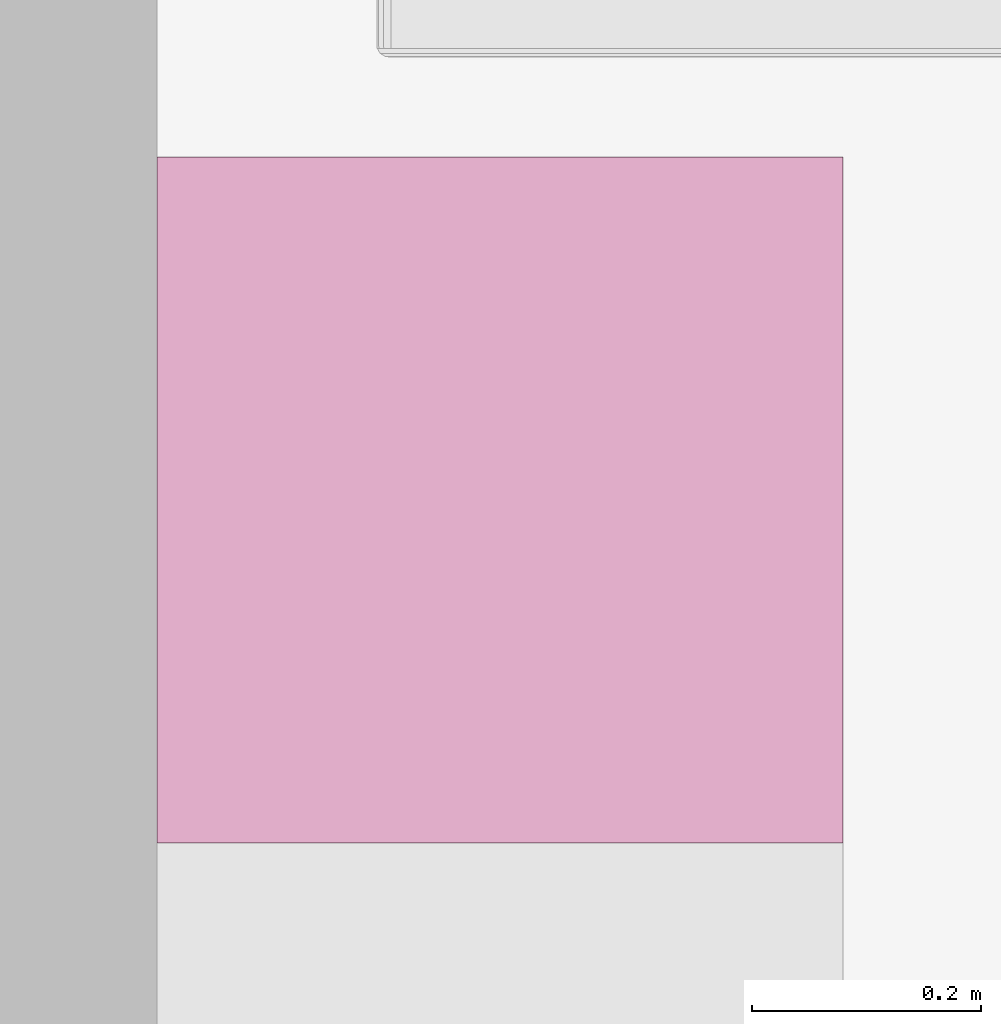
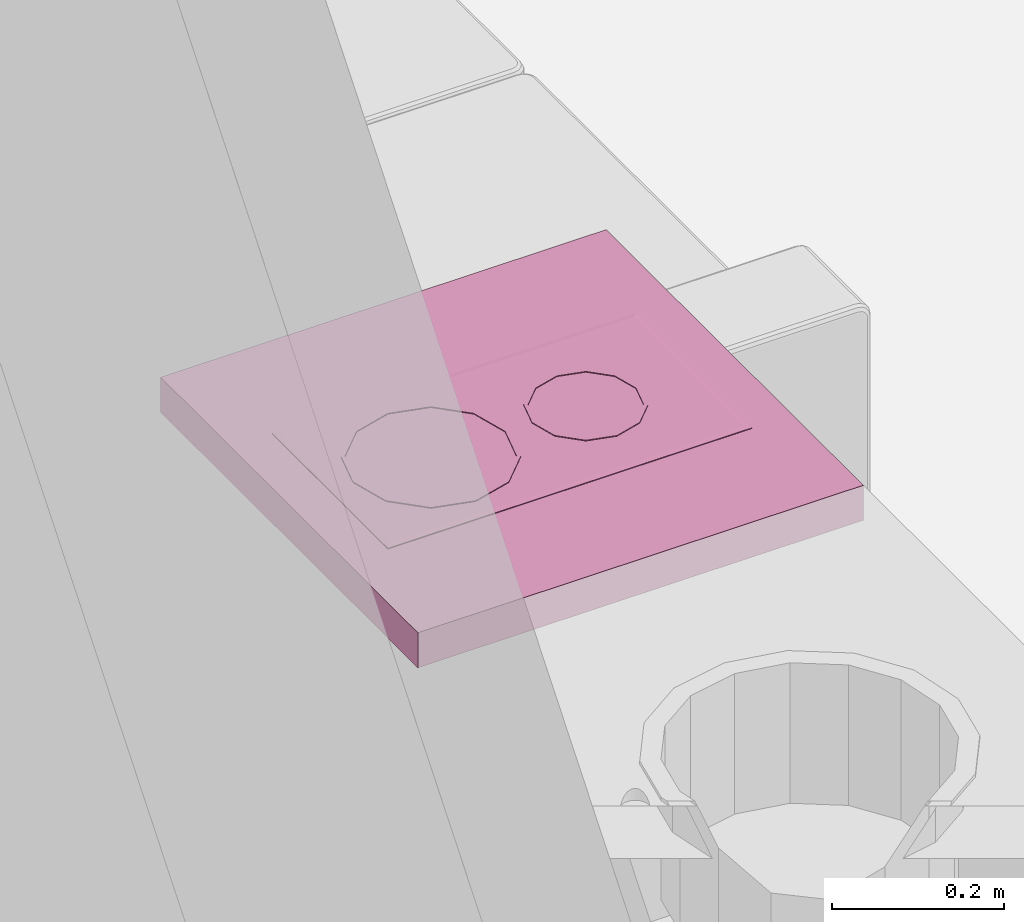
# One storey, part 158 of 165: 1 furnishing.
"""IFC2X3 building model written with IfcOpenShell, lengths in millimetres."""

import ifcopenshell
import ifcopenshell.guid

model = None  # the IFC model being written
_history = None  # IfcOwnerHistory: only IFC2X3 demands one
_inside = {}  # id of a spatial element -> (the spatial element, [elements in it])
_under = {}  # id of a project, library or spatial element -> (it, [spatial elements below it])
_declared = {}  # id of a project -> (the project, [libraries it declares])
_typed = {}  # id of a type object -> (the type object, [elements of that type])
_made_of = {}  # id of a material, layer set ... -> (it, [elements and type objects made of it])


def new_model(schema):
    """Start an empty IFC model of exactly this schema.

    Asked for "IFC4X3", IfcOpenShell would pick the latest addendum, in which some entities
    have other attributes; the version numbers below select the first issue.
    IFC2X3 requires an IfcOwnerHistory on every rooted entity: one is made here for all.
    """
    global model, _history
    if schema == "IFC4X3":
        model = ifcopenshell.file(schema_version=(4, 3, 0, 0))
    else:
        model = ifcopenshell.file(schema=schema)
    _inside.clear()
    _under.clear()
    _declared.clear()
    _typed.clear()
    _made_of.clear()
    _history = None
    if model.schema == "IFC2X3":
        org = make("IfcOrganization", Name="unknown")
        user = make(
            "IfcPersonAndOrganization",
            ThePerson=make("IfcPerson", FamilyName="unknown"),
            TheOrganization=org,
        )
        app = make(
            "IfcApplication",
            ApplicationDeveloper=org,
            Version="unknown",
            ApplicationFullName="unknown",
            ApplicationIdentifier="unknown",
        )
        _history = make(
            "IfcOwnerHistory",
            OwningUser=user,
            OwningApplication=app,
            ChangeAction="ADDED",
            CreationDate=0,
        )
    return model


def make(cls, **values):
    """One entity of the class cls with the attributes given. An attribute that is None is left unset."""
    return model.create_entity(
        cls, **{name: value for name, value in values.items() if value is not None}
    )


def entity(cls, *values):
    """Any entity or typed value of the class cls, its attributes in the order of the schema. None: left unset."""
    e = model.create_entity(cls)
    for i, value in enumerate(values):
        if value is not None:
            e[i] = value
    return e


def rooted(cls, **values):
    """An entity with a GlobalId (a new one), such as an element, a storey or a relation."""
    return make(cls, GlobalId=ifcopenshell.guid.new(), OwnerHistory=_history, **values)


def si_unit(unit_type, name, prefix=None):
    """IfcSIUnit, for example si_unit("LENGTHUNIT", "METRE", prefix="MILLI")."""
    return make("IfcSIUnit", UnitType=unit_type, Prefix=prefix, Name=name)


def converted_unit(unit_type, name, factor, base, dimensions=None, offset=None):
    """IfcConversionBasedUnit, such as the inch: factor (a typed value) times the base unit."""
    return make(
        "IfcConversionBasedUnit"
        if offset is None
        else "IfcConversionBasedUnitWithOffset",
        ConversionOffset=offset,
        Dimensions=None
        if dimensions is None
        else entity("IfcDimensionalExponents", *dimensions),
        UnitType=unit_type,
        Name=name,
        ConversionFactor=make(
            "IfcMeasureWithUnit", ValueComponent=factor, UnitComponent=base
        ),
    )


def money_unit(currency):
    """IfcMonetaryUnit."""
    return make("IfcMonetaryUnit", Currency=currency)


def assignment(units):
    """IfcUnitAssignment: the units of a project."""
    return None if units is None else make("IfcUnitAssignment", Units=units)


def point(xyz):
    """IfcCartesianPoint."""
    return None if xyz is None else make("IfcCartesianPoint", Coordinates=xyz)


def direction(xyz):
    """IfcDirection."""
    return None if xyz is None else make("IfcDirection", DirectionRatios=xyz)


def frame(location, z_axis=None, x_axis=None):
    """IfcAxis2Placement3D, a coordinate frame: its origin and axes. An axis left out is left unset."""
    return make(
        "IfcAxis2Placement3D",
        Location=point(location),
        Axis=direction(z_axis),
        RefDirection=direction(x_axis),
    )


def origin_with_axes():
    """The frame at (0, 0, 0) with the z axis (0, 0, 1) and the x axis (1, 0, 0) written out."""
    return frame((0.0, 0.0, 0.0), z_axis=(0.0, 0.0, 1.0), x_axis=(1.0, 0.0, 0.0))


def place(relative_to, where):
    """IfcLocalPlacement: puts the frame where relative to a parent placement (None: the world)."""
    return make(
        "IfcLocalPlacement", PlacementRelTo=relative_to, RelativePlacement=where
    )


def context(
    kind, dimensions, precision=None, world=None, true_north=None, identifier=None
):
    """IfcGeometricRepresentationContext, for example the 3D "Model" context."""
    return make(
        "IfcGeometricRepresentationContext",
        ContextIdentifier=identifier,
        ContextType=kind,
        CoordinateSpaceDimension=dimensions,
        Precision=precision,
        WorldCoordinateSystem=world,
        TrueNorth=true_north,
    )


def subcontext(parent, identifier, kind, view, scale=None):
    """IfcGeometricRepresentationSubContext, for example "Body" below "Model"."""
    return make(
        "IfcGeometricRepresentationSubContext",
        ContextIdentifier=identifier,
        ContextType=kind,
        ParentContext=parent,
        TargetScale=scale,
        TargetView=view,
    )


def project(units=None, contexts=None):
    """IfcProject with its units and contexts."""
    return rooted(
        "IfcProject",
        Name="project",
        RepresentationContexts=contexts,
        UnitsInContext=assignment(units),
    )


def spatial(cls, under=None, at=None, **own):
    """A site, building, storey or space (cls), placed at a placement, below another one or the project."""
    s = rooted(cls, ObjectPlacement=at, **own)
    if under is not None:
        _under.setdefault(under.id(), (under, []))[1].append(s)
    return s


def faces_of(points, faces, orient=None, outer=None):
    """IfcFace entities. A face is a list of loops; a loop is a list of indices into points, from 0.

    orient and outer hold one flag for each loop. By default every Orientation is true, the
    first loop of a face is its IfcFaceOuterBound and the others are IfcFaceBound.
    """
    made = []
    for i, loops in enumerate(faces):
        bounds = []
        for j, loop in enumerate(loops):
            is_outer = j == 0 if outer is None else outer[i][j]
            bounds.append(
                make(
                    "IfcFaceOuterBound" if is_outer else "IfcFaceBound",
                    Bound=make("IfcPolyLoop", Polygon=[points[k] for k in loop]),
                    Orientation=True if orient is None else orient[i][j],
                )
            )
        made.append(make("IfcFace", Bounds=bounds))
    return made


def faceted_brep(points, faces, orient=None, outer=None, voids=None):
    """IfcFacetedBrep: a solid bounded by flat faces; with voids (closed shells), ...WithVoids."""
    shared = [point(p) for p in points]
    hull = make("IfcClosedShell", CfsFaces=faces_of(shared, faces, orient, outer))
    if voids is None:
        return make("IfcFacetedBrep", Outer=hull)
    return make(
        "IfcFacetedBrepWithVoids",
        Outer=hull,
        Voids=[
            make(cls, CfsFaces=faces_of(shared, fs, o, b)) for cls, fs, o, b in voids
        ],
    )


def shape(context_of_items, identifier, shape_type, items):
    """IfcShapeRepresentation: the items that make up one representation, for example the "Body"."""
    return make(
        "IfcShapeRepresentation",
        ContextOfItems=context_of_items,
        RepresentationIdentifier=identifier,
        RepresentationType=shape_type,
        Items=items,
    )


def source(mapping_origin, context_of_items, identifier, shape_type, items):
    """IfcRepresentationMap: a shape defined once, which mapped items show again and again."""
    return make(
        "IfcRepresentationMap",
        MappingOrigin=mapping_origin,
        MappedRepresentation=shape(context_of_items, identifier, shape_type, items),
    )


def transform(
    local_origin,
    x_axis=None,
    y_axis=None,
    z_axis=None,
    scale=None,
    scale2=None,
    scale3=None,
    uniform=True,
):
    """IfcCartesianTransformationOperator3D, or its non-uniform kind. x_axis, y_axis, z_axis: its Axis1, 2, 3."""
    if uniform:
        return make(
            "IfcCartesianTransformationOperator3D",
            Axis1=direction(x_axis),
            Axis2=direction(y_axis),
            LocalOrigin=point(local_origin),
            Scale=scale,
            Axis3=direction(z_axis),
        )
    return make(
        "IfcCartesianTransformationOperator3DnonUniform",
        Axis1=direction(x_axis),
        Axis2=direction(y_axis),
        LocalOrigin=point(local_origin),
        Scale=scale,
        Axis3=direction(z_axis),
        Scale2=scale2,
        Scale3=scale3,
    )


def mapped(mapping_source, mapping_target):
    """IfcMappedItem: shows the shape of a source again, moved by a transform."""
    return make(
        "IfcMappedItem", MappingSource=mapping_source, MappingTarget=mapping_target
    )


def material(Name=None, Category=None):
    """IfcMaterial."""
    return make("IfcMaterial", Name=Name, Category=Category)


def material_list(materials):
    """IfcMaterialList."""
    return make("IfcMaterialList", Materials=materials)


def made_of(thing, what):
    """Note that an element or type object is made of a material, layer set ...; save() writes the relation."""
    if what is not None:
        _made_of.setdefault(what.id(), (what, []))[1].append(thing)
    return thing


def type_object(cls, material=None, **own):
    """A type object (cls), such as IfcWallType, which elements share."""
    return made_of(rooted(cls, **own), material)


def element(
    cls,
    number,
    at=None,
    inside=None,
    cuts=None,
    type_object=None,
    material=None,
    context=None,
    identifier="Body",
    shape_type=None,
    held_by="IfcProductDefinitionShape",
    body=None,
    shapes=None,
    **own,
):
    """One element of the class cls, such as IfcWall. Its Tag is "e" and its number.

    at: its placement. inside: the storey or other place that contains it. cuts: it is an
    opening in that element (IfcRelVoidsElement). A single representation is given by context,
    identifier, shape_type and body (its items); several are given by shapes. held_by: the class
    of the entity that holds the representations. save() writes the other relations.
    """
    e = rooted(cls, Tag="e%d" % number, ObjectPlacement=at, **own)
    if body is not None:
        shapes = [shape(context, identifier, shape_type, body)]
    if shapes is not None:
        e.Representation = make(held_by, Representations=shapes)
    if inside is not None:
        _inside.setdefault(inside.id(), (inside, []))[1].append(e)
    if cuts is not None:
        rooted(
            "IfcRelVoidsElement", RelatingBuildingElement=cuts, RelatedOpeningElement=e
        )
    if type_object is not None:
        _typed.setdefault(type_object.id(), (type_object, []))[1].append(e)
    return made_of(e, material)


def aggregate(whole, parts):
    """IfcRelAggregates: a whole, such as a stair, and the parts it consists of."""
    return rooted("IfcRelAggregates", RelatingObject=whole, RelatedObjects=parts)


def save(model, path):
    """Write the relations noted so far, then the file.

    IfcRelAggregates (storeys below a building ...), IfcRelContainedInSpatialStructure (elements
    in a storey), IfcRelDefinesByType, IfcRelAssociatesMaterial and IfcRelDeclares: one each for
    every whole, place, type object, material and project.
    """
    for whole, parts in _under.values():
        aggregate(whole, parts)
    for where, things in _inside.values():
        rooted(
            "IfcRelContainedInSpatialStructure",
            RelatedElements=things,
            RelatingStructure=where,
        )
    for kind, things in _typed.values():
        rooted("IfcRelDefinesByType", RelatedObjects=things, RelatingType=kind)
    for what, things in _made_of.values():
        rooted("IfcRelAssociatesMaterial", RelatedObjects=things, RelatingMaterial=what)
    for by, libraries in _declared.values():
        rooted("IfcRelDeclares", RelatingContext=by, RelatedDefinitions=libraries)
    model.write(path)


model = new_model("IFC2X3")

# Units and contexts
model_context = context("Model", 3, precision=1e-05, world=origin_with_axes(), true_north=direction((0.0, 1.0)))
body_context = subcontext(model_context, "Body", "Model", "MODEL_VIEW")
ifc_project = project(units=[si_unit("LENGTHUNIT", "METRE", prefix="MILLI"), si_unit("AREAUNIT", "SQUARE_METRE"), si_unit("VOLUMEUNIT", "CUBIC_METRE"), converted_unit("PLANEANGLEUNIT", "DEGREE", entity("IfcPlaneAngleMeasure", 0.0174532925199), si_unit("PLANEANGLEUNIT", "RADIAN"), dimensions=[0, 0, 0, 0, 0, 0, 0]), si_unit("SOLIDANGLEUNIT", "STERADIAN"), money_unit("USD"), converted_unit("TIMEUNIT", "Year", entity("IfcTimeMeasure", 31556926.0), si_unit("TIMEUNIT", "SECOND"), dimensions=[0, 0, 0, 0, 0, 0, 0]), si_unit("MASSUNIT", "GRAM"), si_unit("THERMODYNAMICTEMPERATUREUNIT", "DEGREE_CELSIUS"), si_unit("LUMINOUSINTENSITYUNIT", "LUMEN")], contexts=[model_context])

# Site, building, storey
site_placement = place(None, origin_with_axes())
site = spatial("IfcSite", under=ifc_project, at=site_placement, Name="Site", CompositionType="ELEMENT")
building_placement = place(site_placement, origin_with_axes())
building = spatial("IfcBuilding", under=site, at=building_placement, Name="Building", CompositionType="ELEMENT")
storey_placement = place(building_placement, frame((0.0, 0.0, 6300.0), z_axis=(0.0, 0.0, 1.0), x_axis=(1.0, 0.0, 0.0)))
storey = spatial("IfcBuildingStorey", under=building, at=storey_placement, Name="4KORRUS", CompositionType="ELEMENT", Elevation=6300.0)

# Furnishing
ifc_material = material(Name="Background")
ifc_material_list = material_list([ifc_material])
furnishing_element_type = type_object("IfcFurnishingElementType", Name="Built-in Cooktops 19")
shared_shape = source(origin_with_axes(), body_context, "Body", "Brep", [
    faceted_brep([(0.0, 0.0, 850.0), (600.0, 0.0, 850.0), (600.0, 0.0, 900.0), (0.0, 0.0, 900.0), (0.0, 600.0, 850.0), (600.0, 600.0, 850.0), (600.0, 600.0, 900.0), (0.0, 600.0, 900.0)], [[[0, 1, 2, 3]], [[0, 4, 5, 1]], [[1, 5, 6, 2]], [[3, 2, 6, 7]], [[4, 0, 3, 7]], [[5, 4, 7, 6]]]),
    faceted_brep([(165.0, 55.0, 900.0), (165.0, 545.0, 900.0), (435.0, 545.0, 900.0), (435.0, 55.0, 900.0), (165.0, 55.0, 900.8), (165.0, 545.0, 900.8), (435.0, 545.0, 900.8), (435.0, 55.0, 900.8), (171.806, 61.806, 902.0), (171.806, 538.194, 902.0), (428.194, 538.194, 902.0), (428.194, 61.806, 902.0)], [[[0, 1, 2, 3]], [[1, 0, 4, 5]], [[2, 1, 5, 6]], [[3, 2, 6, 7]], [[0, 3, 7, 4]], [[5, 4, 8, 9]], [[6, 5, 9, 10]], [[7, 6, 10, 11]], [[4, 7, 11, 8]], [[10, 9, 8, 11]]]),
    faceted_brep([(195.0, 409.27, 902.0), (209.067, 356.77, 902.0), (209.067, 356.77, 903.0), (195.0, 409.27, 903.0), (209.067, 461.77, 902.0), (247.5, 500.203, 902.0), (300.0, 514.27, 902.0), (352.5, 500.203, 902.0), (390.933, 461.77, 902.0), (405.0, 409.27, 902.0), (390.933, 356.77, 902.0), (352.5, 318.337, 902.0), (300.0, 304.27, 902.0), (247.5, 318.337, 902.0), (200.0, 409.27, 902.0), (213.397, 359.27, 902.0), (250.0, 322.667, 902.0), (300.0, 309.27, 902.0), (350.0, 322.667, 902.0), (386.603, 359.27, 902.0), (400.0, 409.27, 902.0), (386.603, 459.27, 902.0), (350.0, 495.873, 902.0), (300.0, 509.27, 902.0), (250.0, 495.873, 902.0), (213.397, 459.27, 902.0), (247.5, 318.337, 903.0), (300.0, 304.27, 903.0), (352.5, 318.337, 903.0), (390.933, 356.77, 903.0), (405.0, 409.27, 903.0), (390.933, 461.77, 903.0), (352.5, 500.203, 903.0), (300.0, 514.27, 903.0), (247.5, 500.203, 903.0), (209.067, 461.77, 903.0), (200.0, 409.27, 903.0), (213.397, 459.27, 903.0), (250.0, 495.873, 903.0), (300.0, 509.27, 903.0), (350.0, 495.873, 903.0), (386.603, 459.27, 903.0), (400.0, 409.27, 903.0), (386.603, 359.27, 903.0), (350.0, 322.667, 903.0), (300.0, 309.27, 903.0), (250.0, 322.667, 903.0), (213.397, 359.27, 903.0)], [[[0, 1, 2, 3]], [[0, 4, 5, 6, 7, 8, 9, 10, 11, 12, 13, 1], [14, 15, 16, 17, 18, 19, 20, 21, 22, 23, 24, 25]], [[1, 13, 26, 2]], [[3, 2, 26, 27, 28, 29, 30, 31, 32, 33, 34, 35], [36, 37, 38, 39, 40, 41, 42, 43, 44, 45, 46, 47]], [[4, 0, 3, 35]], [[5, 4, 35, 34]], [[6, 5, 34, 33]], [[7, 6, 33, 32]], [[8, 7, 32, 31]], [[9, 8, 31, 30]], [[10, 9, 30, 29]], [[11, 10, 29, 28]], [[12, 11, 28, 27]], [[13, 12, 27, 26]], [[15, 14, 36, 47]], [[16, 15, 47, 46]], [[17, 16, 46, 45]], [[18, 17, 45, 44]], [[19, 18, 44, 43]], [[20, 19, 43, 42]], [[21, 20, 42, 41]], [[22, 21, 41, 40]], [[23, 22, 40, 39]], [[24, 23, 39, 38]], [[25, 24, 38, 37]], [[14, 25, 37, 36]]]),
    faceted_brep([(227.5, 200.53, 902.0), (237.213, 164.28, 902.0), (237.213, 164.28, 903.0), (227.5, 200.53, 903.0), (237.213, 236.78, 902.0), (263.75, 263.317, 902.0), (300.0, 273.03, 902.0), (336.25, 263.317, 902.0), (362.787, 236.78, 902.0), (372.5, 200.53, 902.0), (362.787, 164.28, 902.0), (336.25, 137.743, 902.0), (300.0, 128.03, 902.0), (263.75, 137.743, 902.0), (232.5, 200.53, 902.0), (241.543, 166.78, 902.0), (266.25, 142.073, 902.0), (300.0, 133.03, 902.0), (333.75, 142.073, 902.0), (358.457, 166.78, 902.0), (367.5, 200.53, 902.0), (358.457, 234.28, 902.0), (333.75, 258.987, 902.0), (300.0, 268.03, 902.0), (266.25, 258.987, 902.0), (241.543, 234.28, 902.0), (263.75, 137.743, 903.0), (300.0, 128.03, 903.0), (336.25, 137.743, 903.0), (362.787, 164.28, 903.0), (372.5, 200.53, 903.0), (362.787, 236.78, 903.0), (336.25, 263.317, 903.0), (300.0, 273.03, 903.0), (263.75, 263.317, 903.0), (237.213, 236.78, 903.0), (232.5, 200.53, 903.0), (241.543, 234.28, 903.0), (266.25, 258.987, 903.0), (300.0, 268.03, 903.0), (333.75, 258.987, 903.0), (358.457, 234.28, 903.0), (367.5, 200.53, 903.0), (358.457, 166.78, 903.0), (333.75, 142.073, 903.0), (300.0, 133.03, 903.0), (266.25, 142.073, 903.0), (241.543, 166.78, 903.0)], [[[0, 1, 2, 3]], [[0, 4, 5, 6, 7, 8, 9, 10, 11, 12, 13, 1], [14, 15, 16, 17, 18, 19, 20, 21, 22, 23, 24, 25]], [[1, 13, 26, 2]], [[3, 2, 26, 27, 28, 29, 30, 31, 32, 33, 34, 35], [36, 37, 38, 39, 40, 41, 42, 43, 44, 45, 46, 47]], [[4, 0, 3, 35]], [[5, 4, 35, 34]], [[6, 5, 34, 33]], [[7, 6, 33, 32]], [[8, 7, 32, 31]], [[9, 8, 31, 30]], [[10, 9, 30, 29]], [[11, 10, 29, 28]], [[12, 11, 28, 27]], [[13, 12, 27, 26]], [[15, 14, 36, 47]], [[16, 15, 47, 46]], [[17, 16, 46, 45]], [[18, 17, 45, 44]], [[19, 18, 44, 43]], [[20, 19, 43, 42]], [[21, 20, 42, 41]], [[22, 21, 41, 40]], [[23, 22, 40, 39]], [[24, 23, 39, 38]], [[25, 24, 38, 37]], [[14, 25, 37, 36]]]),
])
furnishing_placement = place(storey_placement, frame((-17240.2967033, -7590.04257412, 0.0), z_axis=(0.0, 0.0, 1.0), x_axis=(0.0, 1.0, 0.0)))
element("IfcFurnishingElement", 1, at=furnishing_placement, inside=storey, type_object=furnishing_element_type, material=ifc_material_list, Name="FU - 007", context=body_context, shape_type="MappedRepresentation", body=[
    mapped(shared_shape, transform((0.0, 0.0, 0.0))),
])

save(model, "model.ifc")
